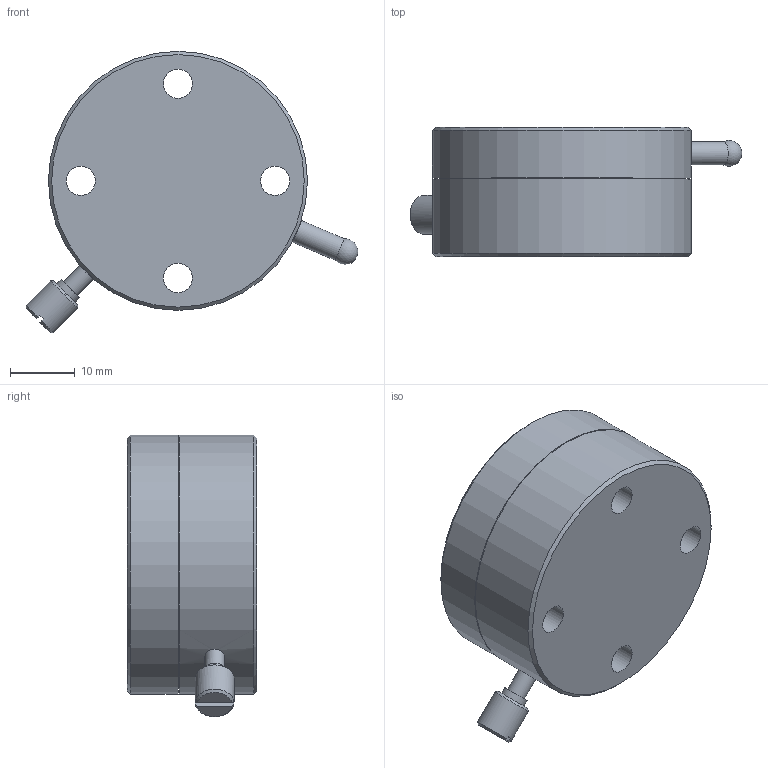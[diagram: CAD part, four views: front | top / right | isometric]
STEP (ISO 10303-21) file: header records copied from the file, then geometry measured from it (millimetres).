
FILE_DESCRIPTION( ( 'STEP AP203' ), '1' );
FILE_NAME( 'p:/temp/worker_7/temp/exporttempdir_4220_436_AhXkw/format_0/REG40.stp', '2020-07-14T01:20:09', ( 'License CC BY-ND 4.0' ), ( 'CADENAS' ), ' ', 'PARTsolutions', ' ' );
FILE_SCHEMA( ( 'CONFIG_CONTROL_DESIGN' ) );
Length unit declared in the file: millimetre
Products named in the file (3): REG40; _REG40b; _REG40a
Assembly tree (2 placements, depth 2):
  REG40
    _REG40b
    _REG40a
Bounding box: 51.2 x 20 x 43.44 mm (x, y, z)
Volume: 21631.4 mm3; surface area: 11414 mm2
Topology: 2 solids, 2 shells, 87 faces, 233 edges, 153 vertices
Faces by surface type: cylinder 37, cone 31, plane 18, sphere 1
Full cylindrical faces by diameter (mm): 1.567 x8, 3 x1, 3.242 x4, 3.6 x1, 4 x1, 4.5 x4, 4.917 x1, 6 x1, 7.5 x8, 38 x2, 40 x2
Entity records: 2340 total; most frequent: CARTESIAN_POINT 450, DIRECTION 398, ORIENTED_EDGE 246, AXIS2_PLACEMENT_3D 191, EDGE_LOOP 180, VERTEX_POINT 123, EDGE_CURVE 123, FACE_OUTER_BOUND 120
